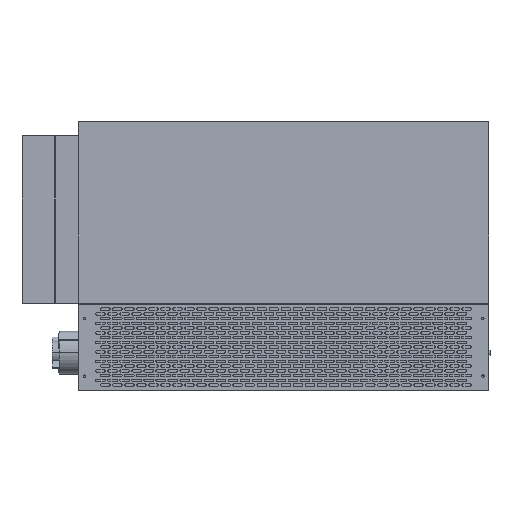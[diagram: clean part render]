
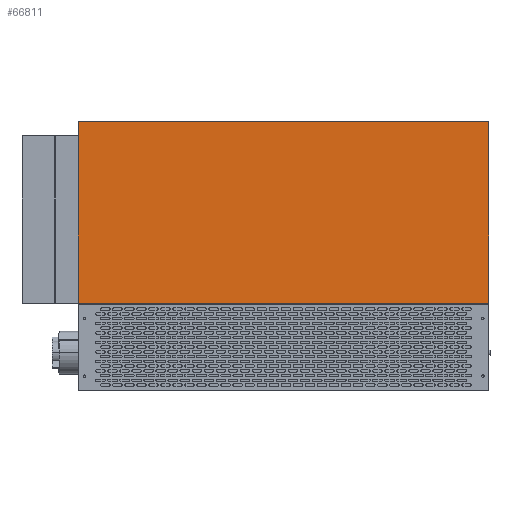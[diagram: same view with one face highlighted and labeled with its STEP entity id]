
A CAD part, top view. The second image highlights one B-rep face of the part: STEP entity #66811.
In plain terms, the highlighted planar face has unit normal (0, 0, 1).
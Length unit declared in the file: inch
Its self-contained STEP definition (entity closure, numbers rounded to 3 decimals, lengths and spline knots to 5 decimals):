
#2546 = LINE ( 'NONE', #45834, #126927 ) ;
#3242 = DIRECTION ( 'NONE',  ( 0., -1., 0. ) ) ;
#18997 = EDGE_LOOP ( 'NONE', ( #69963, #63538, #111719, #129148 ) ) ;
#23827 = CARTESIAN_POINT ( 'NONE',  ( 16.875, 7.164, 2.5625 ) ) ;
#26039 = LINE ( 'NONE', #58677, #130590 ) ;
#31846 = DIRECTION ( 'NONE',  ( 1., 0., 0. ) ) ;
#35256 = CARTESIAN_POINT ( 'NONE',  ( -16.875, 7.164, 2.5625 ) ) ;
#45288 = VERTEX_POINT ( 'NONE', #23827 ) ;
#45834 = CARTESIAN_POINT ( 'NONE',  ( -16.875, 22.125, 2.5625 ) ) ;
#58460 = AXIS2_PLACEMENT_3D ( 'NONE', #78812, #122103, #68152 ) ;
#58677 = CARTESIAN_POINT ( 'NONE',  ( -16.875, 7.164, 2.5625 ) ) ;
#59679 = VERTEX_POINT ( 'NONE', #136306 ) ;
#62888 = EDGE_CURVE ( 'NONE', #59679, #45288, #74530, .T. ) ;
#63538 = ORIENTED_EDGE ( 'NONE', *, *, #86320, .F. ) ;
#66811 = ADVANCED_FACE ( 'NONE', ( #89474 ), #132736, .F. ) ;
#68152 = DIRECTION ( 'NONE',  ( -1., 0., 0. ) ) ;
#69963 = ORIENTED_EDGE ( 'NONE', *, *, #90123, .T. ) ;
#73051 = CARTESIAN_POINT ( 'NONE',  ( -16.875, 22.125, 2.5625 ) ) ;
#74530 = LINE ( 'NONE', #95153, #96482 ) ;
#78812 = CARTESIAN_POINT ( 'NONE',  ( -16.875, 22.125, 2.5625 ) ) ;
#86320 = EDGE_CURVE ( 'NONE', #45288, #129209, #26039, .T. ) ;
#89474 = FACE_OUTER_BOUND ( 'NONE', #18997, .T. ) ;
#89536 = EDGE_CURVE ( 'NONE', #115259, #59679, #139065, .T. ) ;
#90123 = EDGE_CURVE ( 'NONE', #115259, #129209, #2546, .T. ) ;
#95153 = CARTESIAN_POINT ( 'NONE',  ( 16.875, 22.125, 2.5625 ) ) ;
#96482 = VECTOR ( 'NONE', #102487, 39.37008 ) ;
#97466 = VECTOR ( 'NONE', #31846, 39.37008 ) ;
#102487 = DIRECTION ( 'NONE',  ( 0., -1., 0. ) ) ;
#111719 = ORIENTED_EDGE ( 'NONE', *, *, #62888, .F. ) ;
#112473 = CARTESIAN_POINT ( 'NONE',  ( -16.875, 22.125, 2.5625 ) ) ;
#115259 = VERTEX_POINT ( 'NONE', #112473 ) ;
#122103 = DIRECTION ( 'NONE',  ( 0., 0., -1. ) ) ;
#126927 = VECTOR ( 'NONE', #3242, 39.37008 ) ;
#129148 = ORIENTED_EDGE ( 'NONE', *, *, #89536, .F. ) ;
#129209 = VERTEX_POINT ( 'NONE', #35256 ) ;
#130590 = VECTOR ( 'NONE', #133913, 39.37008 ) ;
#132736 = PLANE ( 'NONE',  #58460 ) ;
#133913 = DIRECTION ( 'NONE',  ( -1., 0., 0. ) ) ;
#136306 = CARTESIAN_POINT ( 'NONE',  ( 16.875, 22.125, 2.5625 ) ) ;
#139065 = LINE ( 'NONE', #73051, #97466 ) ;
